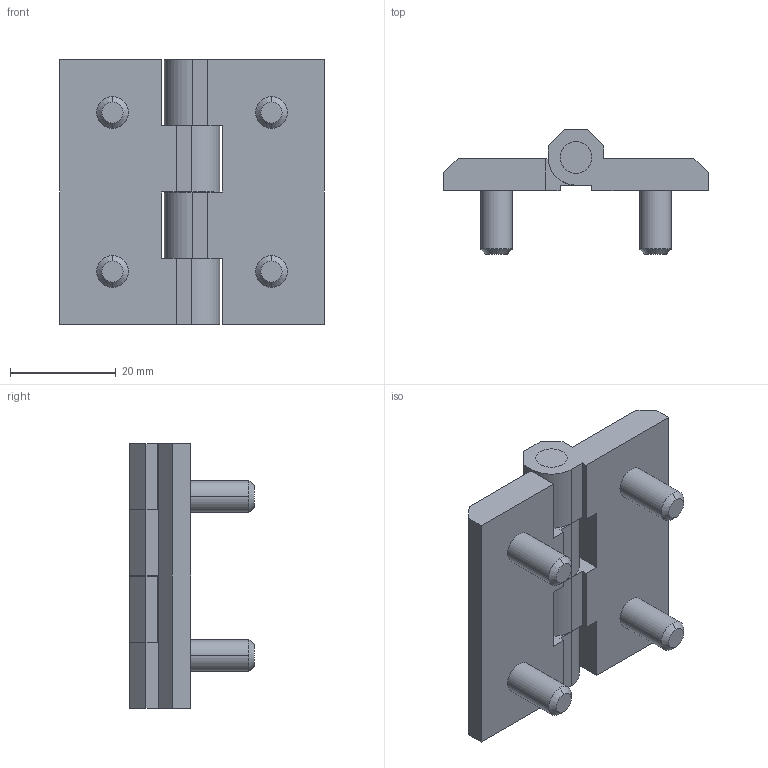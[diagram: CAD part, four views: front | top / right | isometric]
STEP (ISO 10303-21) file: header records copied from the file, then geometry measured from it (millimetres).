
FILE_DESCRIPTION (( 'STEP AP203' ), '1' );
FILE_NAME ('CL266-2A.STEP', '2023-12-11T00:44:05', ( '' ), ( '' ), 'SwSTEP 2.0', 'SolidWorks 2020', '' );
FILE_SCHEMA (( 'CONFIG_CONTROL_DESIGN' ));
Length unit declared in the file: millimetre
Products named in the file (3): CL266-2A; 种赽; 226-2-A
Assembly tree (3 placements, depth 2):
  CL266-2A
    种赽
    226-2-A  x2
Bounding box: 50 x 23.5 x 50 mm (x, y, z)
Volume: 17532.9 mm3; surface area: 10073.1 mm2
Topology: 3 solids, 3 shells, 86 faces, 228 edges, 152 vertices
Faces by surface type: plane 56, cylinder 22, cone 8
Entity records: 1728 total; most frequent: DIRECTION 251, CARTESIAN_POINT 246, ORIENTED_EDGE 234, EDGE_CURVE 117, VECTOR 85, LINE 85, AXIS2_PLACEMENT_3D 83, VERTEX_POINT 78
